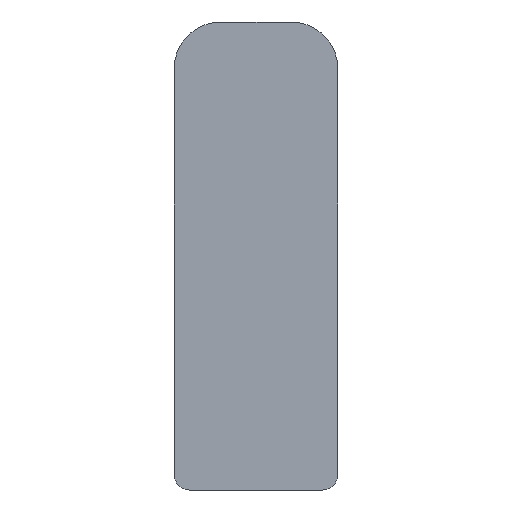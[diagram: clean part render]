
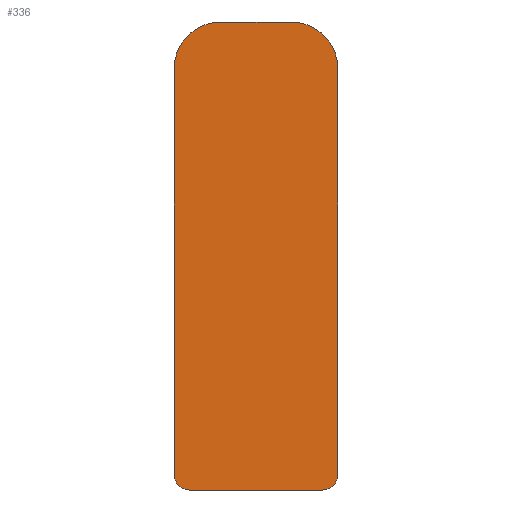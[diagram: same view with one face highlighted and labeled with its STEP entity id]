
A CAD part, left-side view. The second image highlights one B-rep face of the part: STEP entity #336.
In plain terms, the highlighted planar face has unit normal (-1, 0, 0).
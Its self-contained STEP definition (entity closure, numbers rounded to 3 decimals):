
#2 = CIRCLE ( 'NONE', #108, 1. ) ;
#4 = VECTOR ( 'NONE', #328, 1000. ) ;
#8 = LINE ( 'NONE', #330, #4 ) ;
#9 = VECTOR ( 'NONE', #309, 1000. ) ;
#10 = LINE ( 'NONE', #311, #9 ) ;
#14 = CIRCLE ( 'NONE', #110, 3. ) ;
#21 = ORIENTED_EDGE ( 'NONE', *, *, #137, .T. ) ;
#34 = CIRCLE ( 'NONE', #112, 3. ) ;
#46 = EDGE_LOOP ( 'NONE', ( #81, #82, #83, #84, #85, #86, #87, #21 ) ) ;
#81 = ORIENTED_EDGE ( 'NONE', *, *, #116, .T. ) ;
#82 = ORIENTED_EDGE ( 'NONE', *, *, #120, .T. ) ;
#83 = ORIENTED_EDGE ( 'NONE', *, *, #123, .T. ) ;
#84 = ORIENTED_EDGE ( 'NONE', *, *, #126, .T. ) ;
#85 = ORIENTED_EDGE ( 'NONE', *, *, #129, .T. ) ;
#86 = ORIENTED_EDGE ( 'NONE', *, *, #132, .T. ) ;
#87 = ORIENTED_EDGE ( 'NONE', *, *, #135, .T. ) ;
#92 = AXIS2_PLACEMENT_3D ( 'NONE', #232, #231, #230 ) ;
#106 = AXIS2_PLACEMENT_3D ( 'NONE', #280, #278, #277 ) ;
#108 = AXIS2_PLACEMENT_3D ( 'NONE', #300, #299, #297 ) ;
#110 = AXIS2_PLACEMENT_3D ( 'NONE', #321, #319, #317 ) ;
#112 = AXIS2_PLACEMENT_3D ( 'NONE', #225, #224, #220 ) ;
#116 = EDGE_CURVE ( 'NONE', #315, #290, #34, .T. ) ;
#120 = EDGE_CURVE ( 'NONE', #290, #292, #8, .T. ) ;
#123 = EDGE_CURVE ( 'NONE', #292, #307, #14, .T. ) ;
#126 = EDGE_CURVE ( 'NONE', #307, #298, #10, .T. ) ;
#129 = EDGE_CURVE ( 'NONE', #298, #329, #2, .T. ) ;
#132 = EDGE_CURVE ( 'NONE', #329, #318, #145, .T. ) ;
#135 = EDGE_CURVE ( 'NONE', #318, #279, #150, .T. ) ;
#137 = EDGE_CURVE ( 'NONE', #279, #315, #148, .T. ) ;
#141 = VECTOR ( 'NONE', #288, 1000. ) ;
#145 = LINE ( 'NONE', #289, #141 ) ;
#147 = VECTOR ( 'NONE', #272, 1000. ) ;
#148 = LINE ( 'NONE', #273, #147 ) ;
#150 = CIRCLE ( 'NONE', #106, 1. ) ;
#173 = FACE_OUTER_BOUND ( 'NONE', #46, .T. ) ;
#220 = DIRECTION ( 'NONE',  ( 0., 0., 1. ) ) ;
#224 = DIRECTION ( 'NONE',  ( -1., 0., 0. ) ) ;
#225 = CARTESIAN_POINT ( 'NONE',  ( -253.25, -2.25, 27. ) ) ;
#230 = DIRECTION ( 'NONE',  ( 0., 0., 1. ) ) ;
#231 = DIRECTION ( 'NONE',  ( -1., 0., 0. ) ) ;
#232 = CARTESIAN_POINT ( 'NONE',  ( -253.25, -2.25, 27. ) ) ;
#233 = PLANE ( 'NONE',  #92 ) ;
#247 = CARTESIAN_POINT ( 'NONE',  ( -253.25, 4.25, 0. ) ) ;
#251 = CARTESIAN_POINT ( 'NONE',  ( -253.25, -4.25, 0. ) ) ;
#252 = CARTESIAN_POINT ( 'NONE',  ( -253.25, -5.25, 27. ) ) ;
#254 = CARTESIAN_POINT ( 'NONE',  ( -253.25, 5.25, 27. ) ) ;
#257 = CARTESIAN_POINT ( 'NONE',  ( -253.25, 5.25, 1. ) ) ;
#259 = CARTESIAN_POINT ( 'NONE',  ( -253.25, 2.25, 30. ) ) ;
#260 = CARTESIAN_POINT ( 'NONE',  ( -253.25, -2.25, 30. ) ) ;
#263 = CARTESIAN_POINT ( 'NONE',  ( -253.25, -5.25, 1. ) ) ;
#272 = DIRECTION ( 'NONE',  ( 0., 0., 1. ) ) ;
#273 = CARTESIAN_POINT ( 'NONE',  ( -253.25, -5.25, 1. ) ) ;
#277 = DIRECTION ( 'NONE',  ( 0., 0., -1. ) ) ;
#278 = DIRECTION ( 'NONE',  ( -1., 0., 0. ) ) ;
#279 = VERTEX_POINT ( 'NONE', #263 ) ;
#280 = CARTESIAN_POINT ( 'NONE',  ( -253.25, -4.25, 1. ) ) ;
#288 = DIRECTION ( 'NONE',  ( 0., -1., 0. ) ) ;
#289 = CARTESIAN_POINT ( 'NONE',  ( -253.25, -4.25, 0. ) ) ;
#290 = VERTEX_POINT ( 'NONE', #260 ) ;
#292 = VERTEX_POINT ( 'NONE', #259 ) ;
#297 = DIRECTION ( 'NONE',  ( 0., 0., -1. ) ) ;
#298 = VERTEX_POINT ( 'NONE', #257 ) ;
#299 = DIRECTION ( 'NONE',  ( -1., 0., 0. ) ) ;
#300 = CARTESIAN_POINT ( 'NONE',  ( -253.25, 4.25, 1. ) ) ;
#307 = VERTEX_POINT ( 'NONE', #254 ) ;
#309 = DIRECTION ( 'NONE',  ( 0., 0., -1. ) ) ;
#311 = CARTESIAN_POINT ( 'NONE',  ( -253.25, 5.25, 1. ) ) ;
#315 = VERTEX_POINT ( 'NONE', #252 ) ;
#317 = DIRECTION ( 'NONE',  ( 0., 0., -1. ) ) ;
#318 = VERTEX_POINT ( 'NONE', #251 ) ;
#319 = DIRECTION ( 'NONE',  ( -1., 0., 0. ) ) ;
#321 = CARTESIAN_POINT ( 'NONE',  ( -253.25, 2.25, 27. ) ) ;
#328 = DIRECTION ( 'NONE',  ( 0., 1., 0. ) ) ;
#329 = VERTEX_POINT ( 'NONE', #247 ) ;
#330 = CARTESIAN_POINT ( 'NONE',  ( -253.25, -2.25, 30. ) ) ;
#336 = ADVANCED_FACE ( 'NONE', ( #173 ), #233, .T. ) ;
